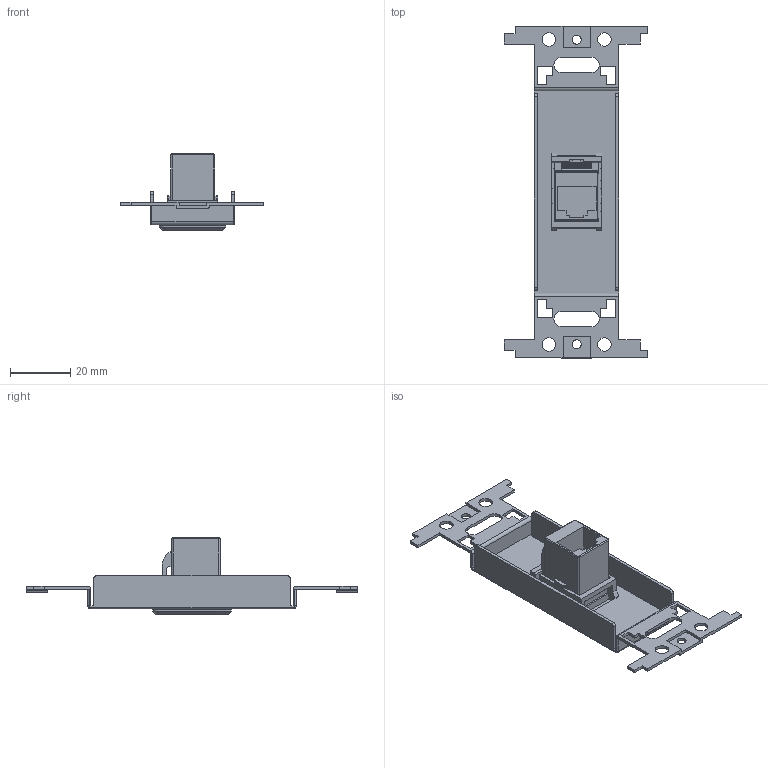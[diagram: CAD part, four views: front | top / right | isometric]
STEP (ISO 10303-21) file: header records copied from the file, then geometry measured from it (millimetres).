
FILE_DESCRIPTION(('FreeCAD Model'),'2;1');
FILE_NAME('Open CASCADE Shape Model','2026-09-10T14:21:37',(''),(''), 'Open CASCADE STEP processor 7.8','FreeCAD','Unknown');
FILE_SCHEMA(('AUTOMOTIVE_DESIGN { 1 0 10303 214 1 1 1 1 }'));
Length unit declared in the file: millimetre
Products named in the file (5): CMW_SIC6_WH; P_200795_XX; P-200795; 3013BUS12xx; TB-030_3013AJIC6WH_SD
Assembly tree (4 placements, depth 3):
  CMW_SIC6_WH
    P_200795_XX
      P-200795
      3013BUS12xx
    TB-030_3013AJIC6WH_SD
Bounding box: 47.6 x 110 x 25.2 mm (x, y, z)
Volume: 9030.1 mm3; surface area: 14404.9 mm2
Topology: 3 solids, 3 shells, 368 faces, 1018 edges, 658 vertices
Faces by surface type: bspline 248, plane 88, cylinder 28, torus 4
Full cylindrical faces by diameter (mm): 3 x2, 4.5 x4
Entity records: 14580 total; most frequent: CARTESIAN_POINT 7100, ORIENTED_EDGE 2040, EDGE_CURVE 1018, B_SPLINE_CURVE_WITH_KNOTS 671, VERTEX_POINT 658, DIRECTION 657, FACE_BOUND 404, EDGE_LOOP 404
